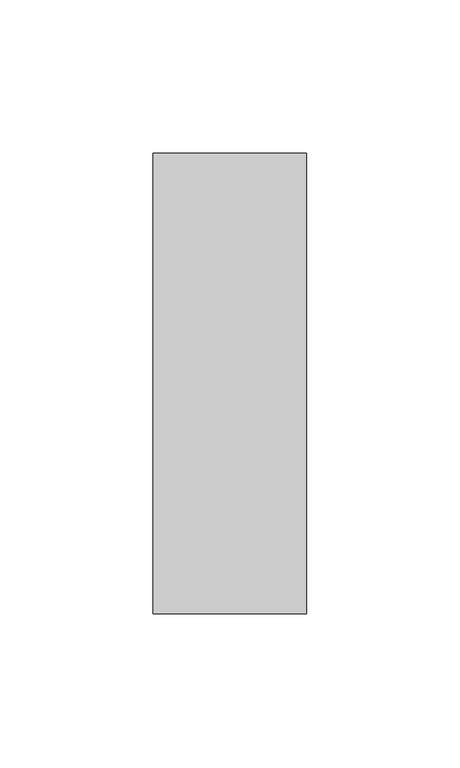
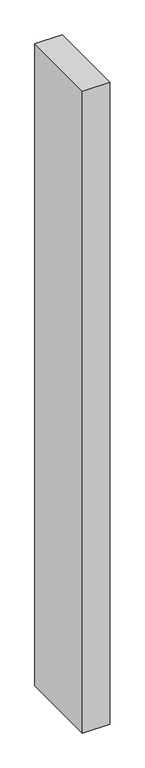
"""IFC4 building model written with IfcOpenShell, lengths in millimetres: member geometry, Прямоугольный импост : 50 x 150 мм."""

from ifc_helpers import new_model, si_unit, frame, origin, place, context, project, spatial, polyline, outline, extrude, source, transform, mapped, element, save


def member_5974ea73(model_context):
    return source(origin(), model_context, "Body", "SweptSolid", [
        extrude(outline(polyline([(25.0, 75.0), (25.0, -75.0), (-25.0, -75.0), (-25.0, 75.0), (25.0, 75.0)])), frame((0.0, 0.0, -1237.151362), z_axis=(0.0, 0.0, 1.0), x_axis=(1.0, 0.0, 0.0)), (0.0, 0.0, 1.0), 1237.151362),
    ])


if __name__ == "__main__":
    model = new_model("IFC4")
    model_context = context("Model", 3, world=origin())
    ifc_project = project(units=[si_unit("LENGTHUNIT", "METRE", prefix="MILLI")], contexts=[model_context])
    site = spatial("IfcSite", under=ifc_project)
    building = spatial("IfcBuilding", under=site)
    placement = place(None, origin())
    member_shape = member_5974ea73(model_context)
    element("IfcMember", 1, ObjectType="Прямоугольный импост : 50 x 150 мм", at=placement, inside=building, context=model_context, shape_type="MappedRepresentation", body=[
        mapped(member_shape, transform((0.0, 0.0, 0.0), x_axis=(1.0, 0.0, 0.0), y_axis=(0.0, 1.0, 0.0), z_axis=(0.0, 0.0, 1.0))),
    ])
    save(model, "model.ifc")
